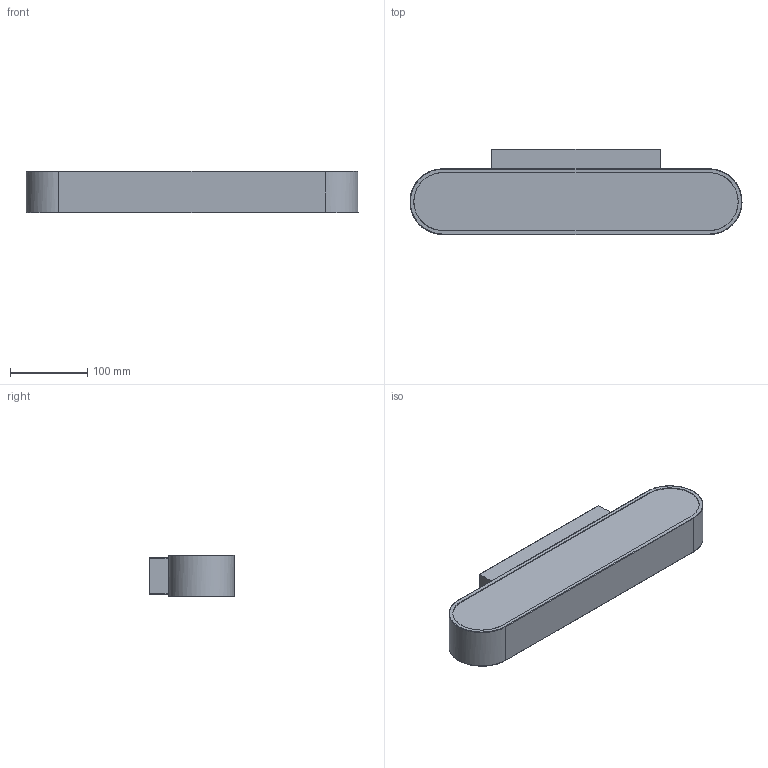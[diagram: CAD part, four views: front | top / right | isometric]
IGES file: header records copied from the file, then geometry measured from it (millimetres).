
Global section: file name: C:\Users\EQUIPO\Desktop\COLECCIONES ACB MODELADAS 3D OK\GALA\gala-16-3189-led-3200.igs; native system: Rhinoceros ( Oct  8 2013 ); preprocessor: Trout Lake IGES 012 Oct  8 2013; date: 190201.181950; units: millimetre
Bounding box: 429.98 x 110 x 54 mm (x, y, z)
Surface area: 217683.1 mm2 (no closed solid volume)
Topology: 0 solids, 0 shells, 31 faces, 212 edges, 212 vertices
Faces by surface type: bspline 31
